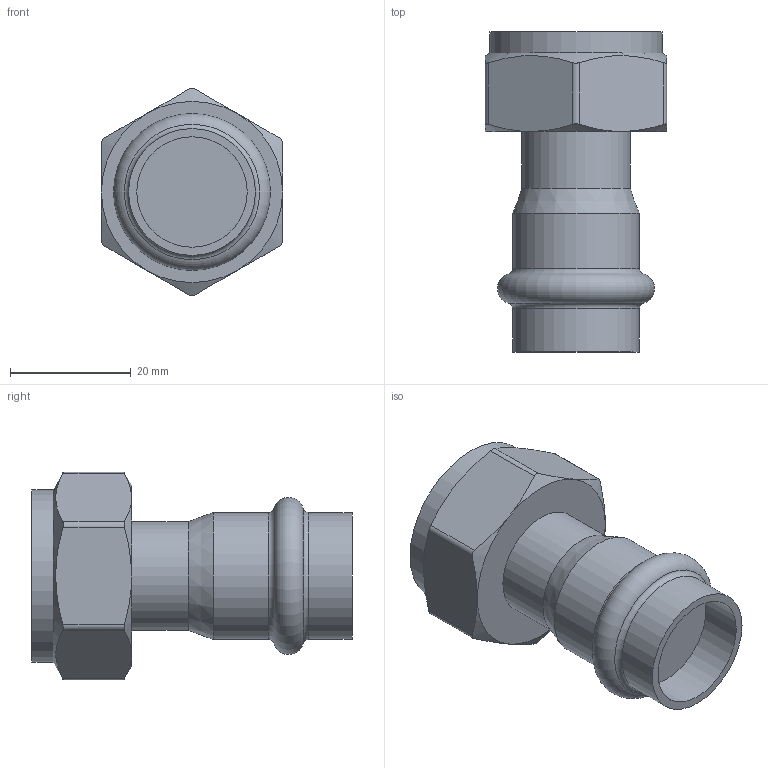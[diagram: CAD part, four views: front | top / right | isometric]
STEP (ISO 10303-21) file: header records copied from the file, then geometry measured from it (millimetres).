
FILE_DESCRIPTION(('STEP AP203'), '1');
FILE_NAME('VTi.908.I.001805', '', ('UNSPECIFIED'), ('UNSPECIFIED'), 'C3D Converter', 'C3D Toolkit', '');
FILE_SCHEMA(('CONFIG_CONTROL_DESIGN'));
Length unit declared in the file: millimetre
Bounding box: 30 x 53 x 34.33 mm (x, y, z)
Volume: 18505.5 mm3; surface area: 6778.8 mm2
Topology: 1 solids, 1 shells, 35 faces, 77 edges, 47 vertices
Faces by surface type: cylinder 12, plane 11, cone 9, torus 3
Full cylindrical faces by diameter (mm): 18 x1, 18.3 x1, 21 x2, 24.118 x1, 28.5 x1
Entity records: 1824 total; most frequent: CARTESIAN_POINT 1105, ORIENTED_EDGE 130, DIRECTION 128, EDGE_CURVE 65, AXIS2_PLACEMENT_3D 58, EDGE_LOOP 50, VERTEX_POINT 47, ADVANCED_FACE 35
